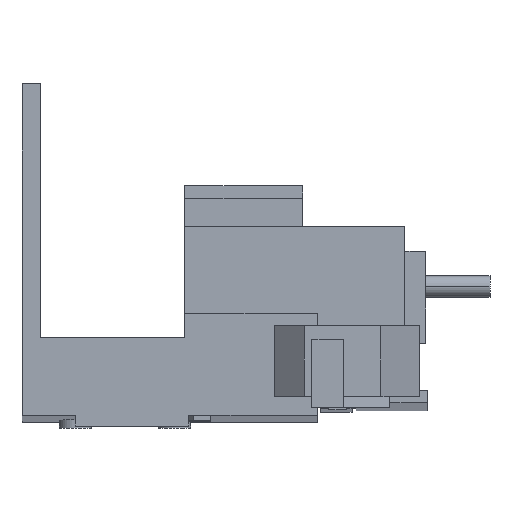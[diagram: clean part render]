
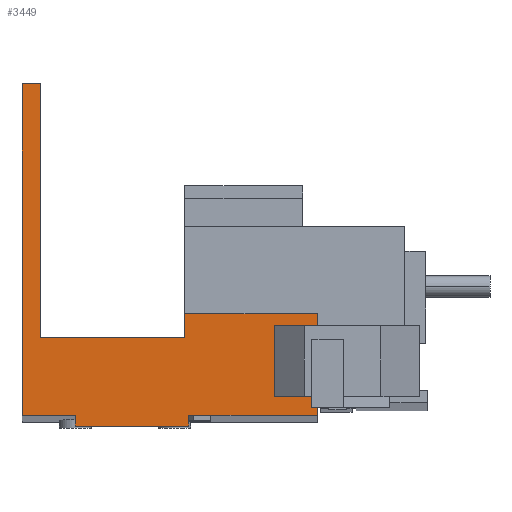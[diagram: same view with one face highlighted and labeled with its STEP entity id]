
A CAD part, front view. The second image highlights one B-rep face of the part: STEP entity #3449.
In plain terms, the highlighted planar face has unit normal (0, -1, 0.002).
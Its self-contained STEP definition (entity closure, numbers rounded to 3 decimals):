
#67 = VERTEX_POINT ( 'NONE', #3639 ) ;
#86 = VERTEX_POINT ( 'NONE', #3645 ) ;
#97 = VERTEX_POINT ( 'NONE', #3650 ) ;
#354 = VERTEX_POINT ( 'NONE', #3707 ) ;
#422 = VERTEX_POINT ( 'NONE', #3730 ) ;
#760 = LINE ( 'NONE', #5261, #763 ) ;
#763 = VECTOR ( 'NONE', #5262, 1000. ) ;
#813 = LINE ( 'NONE', #2999, #817 ) ;
#817 = VECTOR ( 'NONE', #3006, 1000. ) ;
#870 = LINE ( 'NONE', #5176, #872 ) ;
#872 = VECTOR ( 'NONE', #5183, 1000. ) ;
#1029 = VERTEX_POINT ( 'NONE', #3763 ) ;
#1032 = VERTEX_POINT ( 'NONE', #3766 ) ;
#1052 = VERTEX_POINT ( 'NONE', #3786 ) ;
#1075 = VERTEX_POINT ( 'NONE', #3809 ) ;
#1079 = VERTEX_POINT ( 'NONE', #3813 ) ;
#1518 = EDGE_LOOP ( 'NONE', ( #4766, #4751, #4623, #4882, #4878, #4874, #4868, #4863, #4856, #4852, #4845, #4841 ) ) ;
#1593 = VERTEX_POINT ( 'NONE', #4004 ) ;
#1594 = VERTEX_POINT ( 'NONE', #4005 ) ;
#1771 = LINE ( 'NONE', #5995, #2430 ) ;
#1773 = LINE ( 'NONE', #5997, #2436 ) ;
#2396 = FACE_OUTER_BOUND ( 'NONE', #1518, .T. ) ;
#2418 = EDGE_CURVE ( 'NONE', #1079, #1594, #813, .T. ) ;
#2430 = VECTOR ( 'NONE', #5996, 1000. ) ;
#2433 = VECTOR ( 'NONE', #6016, 1000. ) ;
#2436 = VECTOR ( 'NONE', #5999, 1000. ) ;
#2464 = LINE ( 'NONE', #6003, #2467 ) ;
#2467 = VECTOR ( 'NONE', #6004, 1000. ) ;
#2473 = LINE ( 'NONE', #6011, #2477 ) ;
#2477 = VECTOR ( 'NONE', #6012, 1000. ) ;
#2478 = LINE ( 'NONE', #6015, #2433 ) ;
#2566 = EDGE_CURVE ( 'NONE', #1029, #1032, #870, .T. ) ;
#2663 = LINE ( 'NONE', #5797, #2674 ) ;
#2674 = VECTOR ( 'NONE', #5798, 1000. ) ;
#2678 = VECTOR ( 'NONE', #5686, 1000. ) ;
#2709 = VECTOR ( 'NONE', #5627, 1000. ) ;
#2763 = LINE ( 'NONE', #5691, #2678 ) ;
#2770 = LINE ( 'NONE', #5662, #2863 ) ;
#2861 = EDGE_CURVE ( 'NONE', #1032, #1052, #760, .T. ) ;
#2863 = VECTOR ( 'NONE', #5660, 1000. ) ;
#2879 = LINE ( 'NONE', #5621, #2709 ) ;
#2999 = CARTESIAN_POINT ( 'NONE',  ( 0., -32.978, 10.519 ) ) ;
#3006 = DIRECTION ( 'NONE',  ( 0., 0.002, 1. ) ) ;
#3162 = EDGE_CURVE ( 'NONE', #354, #86, #2879, .T. ) ;
#3179 = EDGE_CURVE ( 'NONE', #86, #1029, #2770, .T. ) ;
#3190 = EDGE_CURVE ( 'NONE', #1594, #1593, #2763, .T. ) ;
#3231 = EDGE_CURVE ( 'NONE', #1075, #1079, #2663, .T. ) ;
#3327 = EDGE_CURVE ( 'NONE', #1593, #97, #1771, .T. ) ;
#3328 = EDGE_CURVE ( 'NONE', #422, #67, #1773, .T. ) ;
#3331 = EDGE_CURVE ( 'NONE', #97, #354, #2464, .T. ) ;
#3335 = EDGE_CURVE ( 'NONE', #67, #1052, #2473, .T. ) ;
#3337 = EDGE_CURVE ( 'NONE', #422, #1075, #2478, .T. ) ;
#3449 = ADVANCED_FACE ( 'NONE', ( #2396 ), #6098, .F. ) ;
#3639 = CARTESIAN_POINT ( 'NONE',  ( 23.5, -33.079, -37.681 ) ) ;
#3645 = CARTESIAN_POINT ( 'NONE',  ( 22.92, -33.046, -21.831 ) ) ;
#3650 = CARTESIAN_POINT ( 'NONE',  ( 2.55, -33.053, -25.181 ) ) ;
#3707 = CARTESIAN_POINT ( 'NONE',  ( 22.92, -33.053, -25.181 ) ) ;
#3730 = CARTESIAN_POINT ( 'NONE',  ( 7.5, -33.079, -37.681 ) ) ;
#3763 = CARTESIAN_POINT ( 'NONE',  ( 41.6, -33.046, -21.831 ) ) ;
#3766 = CARTESIAN_POINT ( 'NONE',  ( 41.6, -33.076, -36.181 ) ) ;
#3786 = CARTESIAN_POINT ( 'NONE',  ( 23.5, -33.076, -36.181 ) ) ;
#3809 = CARTESIAN_POINT ( 'NONE',  ( 7.5, -33.076, -36.181 ) ) ;
#3813 = CARTESIAN_POINT ( 'NONE',  ( 0., -33.076, -36.181 ) ) ;
#4004 = CARTESIAN_POINT ( 'NONE',  ( 2.55, -32.978, 10.519 ) ) ;
#4005 = CARTESIAN_POINT ( 'NONE',  ( 0., -32.978, 10.519 ) ) ;
#4413 = AXIS2_PLACEMENT_3D ( 'NONE', #6096, #6101, #6102 ) ;
#4623 = ORIENTED_EDGE ( 'NONE', *, *, #3190, .F. ) ;
#4751 = ORIENTED_EDGE ( 'NONE', *, *, #3327, .F. ) ;
#4766 = ORIENTED_EDGE ( 'NONE', *, *, #3331, .F. ) ;
#4841 = ORIENTED_EDGE ( 'NONE', *, *, #3162, .F. ) ;
#4845 = ORIENTED_EDGE ( 'NONE', *, *, #3179, .F. ) ;
#4852 = ORIENTED_EDGE ( 'NONE', *, *, #2566, .F. ) ;
#4856 = ORIENTED_EDGE ( 'NONE', *, *, #2861, .F. ) ;
#4863 = ORIENTED_EDGE ( 'NONE', *, *, #3335, .T. ) ;
#4868 = ORIENTED_EDGE ( 'NONE', *, *, #3328, .T. ) ;
#4874 = ORIENTED_EDGE ( 'NONE', *, *, #3337, .F. ) ;
#4878 = ORIENTED_EDGE ( 'NONE', *, *, #3231, .F. ) ;
#4882 = ORIENTED_EDGE ( 'NONE', *, *, #2418, .F. ) ;
#5176 = CARTESIAN_POINT ( 'NONE',  ( 41.6, -33.076, -36.181 ) ) ;
#5183 = DIRECTION ( 'NONE',  ( 0., -0.002, -1. ) ) ;
#5261 = CARTESIAN_POINT ( 'NONE',  ( 0., -33.076, -36.181 ) ) ;
#5262 = DIRECTION ( 'NONE',  ( -1., 0., 0. ) ) ;
#5621 = CARTESIAN_POINT ( 'NONE',  ( 22.92, -33.046, -21.831 ) ) ;
#5627 = DIRECTION ( 'NONE',  ( 0., 0.002, 1. ) ) ;
#5660 = DIRECTION ( 'NONE',  ( 1., 0., 0. ) ) ;
#5662 = CARTESIAN_POINT ( 'NONE',  ( 41.6, -33.046, -21.831 ) ) ;
#5686 = DIRECTION ( 'NONE',  ( 1., 0., 0. ) ) ;
#5691 = CARTESIAN_POINT ( 'NONE',  ( 2.55, -32.978, 10.519 ) ) ;
#5797 = CARTESIAN_POINT ( 'NONE',  ( 0., -33.076, -36.181 ) ) ;
#5798 = DIRECTION ( 'NONE',  ( -1., 0., 0. ) ) ;
#5995 = CARTESIAN_POINT ( 'NONE',  ( 2.55, -33.072, -34.53 ) ) ;
#5996 = DIRECTION ( 'NONE',  ( 0., -0.002, -1. ) ) ;
#5997 = CARTESIAN_POINT ( 'NONE',  ( 7.5, -33.079, -37.681 ) ) ;
#5999 = DIRECTION ( 'NONE',  ( 1., 0., 0. ) ) ;
#6003 = CARTESIAN_POINT ( 'NONE',  ( 2., -33.053, -25.181 ) ) ;
#6004 = DIRECTION ( 'NONE',  ( 1., 0., 0. ) ) ;
#6011 = CARTESIAN_POINT ( 'NONE',  ( 23.5, -33.079, -37.681 ) ) ;
#6012 = DIRECTION ( 'NONE',  ( 0., 0.002, 1. ) ) ;
#6015 = CARTESIAN_POINT ( 'NONE',  ( 7.5, -33.079, -37.681 ) ) ;
#6016 = DIRECTION ( 'NONE',  ( 0., 0.002, 1. ) ) ;
#6096 = CARTESIAN_POINT ( 'NONE',  ( 0., -33.076, -36.181 ) ) ;
#6098 = PLANE ( 'NONE',  #4413 ) ;
#6101 = DIRECTION ( 'NONE',  ( 0., 1., -0.002 ) ) ;
#6102 = DIRECTION ( 'NONE',  ( 1., 0., 0. ) ) ;
